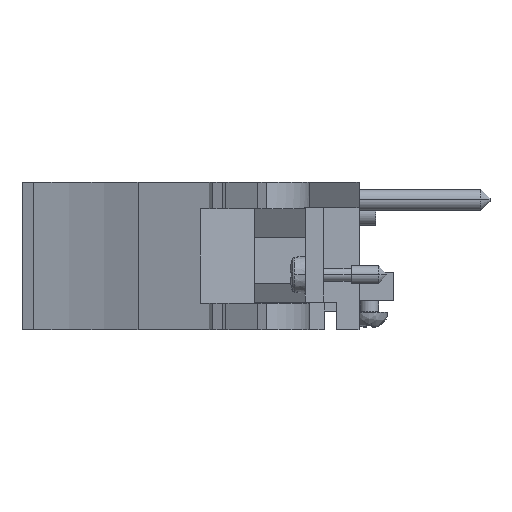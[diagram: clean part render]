
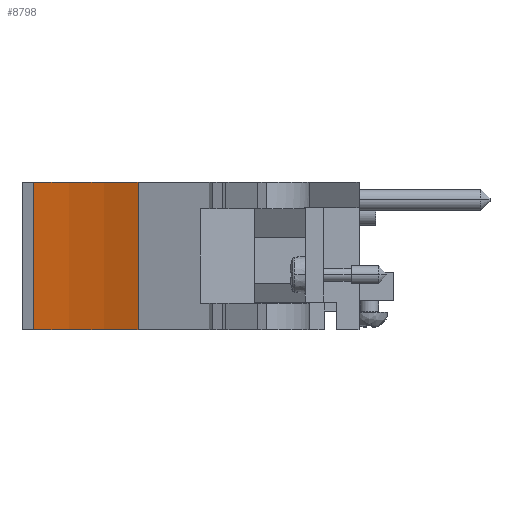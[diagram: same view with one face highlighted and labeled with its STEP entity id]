
A CAD part, front view. The second image highlights one B-rep face of the part: STEP entity #8798.
In plain terms, the highlighted cylindrical face has radius 51.46 mm (diameter 102.919 mm), a partial arc.
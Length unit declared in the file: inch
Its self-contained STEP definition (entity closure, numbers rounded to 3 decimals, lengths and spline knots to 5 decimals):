
#449=CARTESIAN_POINT('',(-1.97633,-5.95079,0.695));
#450=DIRECTION('',(0.,0.,1.));
#451=DIRECTION('',(0.435,0.9,0.));
#452=AXIS2_PLACEMENT_3D('',#449,#450,#451);
#794=CARTESIAN_POINT('',(-1.97633,-5.95079,-0.093));
#795=DIRECTION('',(0.,0.,1.));
#796=DIRECTION('',(0.435,0.9,0.));
#797=AXIS2_PLACEMENT_3D('',#794,#795,#796);
#1012=DIRECTION('',(0.,0.,1.));
#1013=VECTOR('',#1012,0.788);
#1014=CARTESIAN_POINT('',(-1.653,-3.95079,-0.093));
#1015=LINE('',#1014,#1013);
#1020=DIRECTION('',(0.,0.,1.));
#1021=VECTOR('',#1020,0.788);
#1022=CARTESIAN_POINT('',(-1.09503,-4.12655,-0.093));
#1023=LINE('',#1022,#1021);
#6258=CARTESIAN_POINT('',(-1.09503,-4.12655,-0.093));
#6259=CARTESIAN_POINT('',(-1.653,-3.95079,-0.093));
#6260=VERTEX_POINT('',#6258);
#6261=VERTEX_POINT('',#6259);
#6262=CARTESIAN_POINT('',(-1.09503,-4.12655,0.695));
#6263=CARTESIAN_POINT('',(-1.653,-3.95079,0.695));
#6264=VERTEX_POINT('',#6262);
#6265=VERTEX_POINT('',#6263);
#8786=CARTESIAN_POINT('',(-1.97633,-5.95079,0.695));
#8787=DIRECTION('',(0.,0.,1.));
#8788=DIRECTION('',(0.,1.,0.));
#8789=AXIS2_PLACEMENT_3D('',#8786,#8787,#8788);
#8790=CYLINDRICAL_SURFACE('',#8789,2.02597);
#8791=ORIENTED_EDGE('',*,*,#8504,.T.);
#8792=ORIENTED_EDGE('',*,*,#8778,.T.);
#8793=ORIENTED_EDGE('',*,*,#8053,.F.);
#8795=ORIENTED_EDGE('',*,*,#8794,.F.);
#8796=EDGE_LOOP('',(#8791,#8792,#8793,#8795));
#8797=FACE_OUTER_BOUND('',#8796,.F.);
#8798=ADVANCED_FACE('',(#8797),#8790,.F.);
#453=CIRCLE('',#452,2.02597);
#798=CIRCLE('',#797,2.02597);
#8053=EDGE_CURVE('',#6264,#6265,#453,.T.);
#8504=EDGE_CURVE('',#6260,#6261,#798,.T.);
#8778=EDGE_CURVE('',#6261,#6265,#1015,.T.);
#8794=EDGE_CURVE('',#6260,#6264,#1023,.T.);
